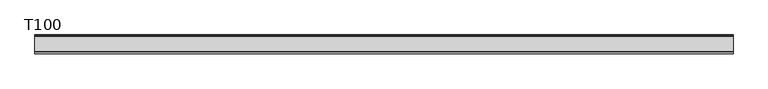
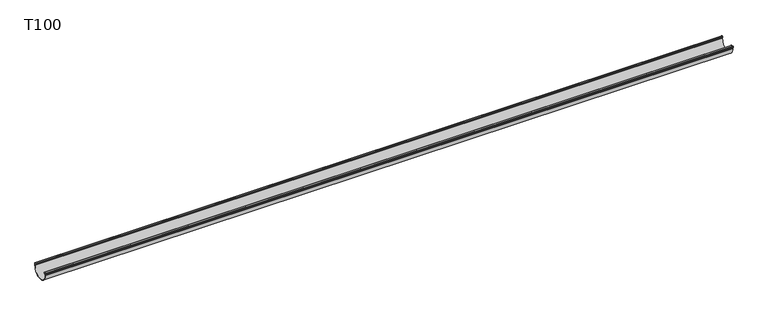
"""IFC4 building model written with IfcOpenShell, lengths in millimetres: proxy geometry, GROVIK_Gutter_Straight : T100."""

import ifcopenshell
import ifcopenshell.guid

model = None  # the IFC model being written
_history = None  # IfcOwnerHistory: only IFC2X3 demands one
_inside = {}  # id of a spatial element -> (the spatial element, [elements in it])
_under = {}  # id of a project, library or spatial element -> (it, [spatial elements below it])
_declared = {}  # id of a project -> (the project, [libraries it declares])
_typed = {}  # id of a type object -> (the type object, [elements of that type])
_made_of = {}  # id of a material, layer set ... -> (it, [elements and type objects made of it])


def new_model(schema):
    """Start an empty IFC model of exactly this schema.

    Asked for "IFC4X3", IfcOpenShell would pick the latest addendum, in which some entities
    have other attributes; the version numbers below select the first issue.
    IFC2X3 requires an IfcOwnerHistory on every rooted entity: one is made here for all.
    """
    global model, _history
    if schema == "IFC4X3":
        model = ifcopenshell.file(schema_version=(4, 3, 0, 0))
    else:
        model = ifcopenshell.file(schema=schema)
    _inside.clear()
    _under.clear()
    _declared.clear()
    _typed.clear()
    _made_of.clear()
    _history = None
    if model.schema == "IFC2X3":
        org = make("IfcOrganization", Name="unknown")
        user = make(
            "IfcPersonAndOrganization",
            ThePerson=make("IfcPerson", FamilyName="unknown"),
            TheOrganization=org,
        )
        app = make(
            "IfcApplication",
            ApplicationDeveloper=org,
            Version="unknown",
            ApplicationFullName="unknown",
            ApplicationIdentifier="unknown",
        )
        _history = make(
            "IfcOwnerHistory",
            OwningUser=user,
            OwningApplication=app,
            ChangeAction="ADDED",
            CreationDate=0,
        )
    return model


def make(cls, **values):
    """One entity of the class cls with the attributes given. An attribute that is None is left unset."""
    return model.create_entity(
        cls, **{name: value for name, value in values.items() if value is not None}
    )


def rooted(cls, **values):
    """An entity with a GlobalId (a new one), such as an element, a storey or a relation."""
    return make(cls, GlobalId=ifcopenshell.guid.new(), OwnerHistory=_history, **values)


def si_unit(unit_type, name, prefix=None):
    """IfcSIUnit, for example si_unit("LENGTHUNIT", "METRE", prefix="MILLI")."""
    return make("IfcSIUnit", UnitType=unit_type, Prefix=prefix, Name=name)


def assignment(units):
    """IfcUnitAssignment: the units of a project."""
    return None if units is None else make("IfcUnitAssignment", Units=units)


def point(xyz):
    """IfcCartesianPoint."""
    return None if xyz is None else make("IfcCartesianPoint", Coordinates=xyz)


def direction(xyz):
    """IfcDirection."""
    return None if xyz is None else make("IfcDirection", DirectionRatios=xyz)


def frame(location, z_axis=None, x_axis=None):
    """IfcAxis2Placement3D, a coordinate frame: its origin and axes. An axis left out is left unset."""
    return make(
        "IfcAxis2Placement3D",
        Location=point(location),
        Axis=direction(z_axis),
        RefDirection=direction(x_axis),
    )


def frame_2d(location, x_axis=None):
    """IfcAxis2Placement2D, a coordinate frame in the plane: its origin and x axis."""
    return make(
        "IfcAxis2Placement2D", Location=point(location), RefDirection=direction(x_axis)
    )


def origin():
    """The frame at (0, 0, 0) with its axes left unset."""
    return frame((0.0, 0.0, 0.0))


def place(relative_to, where):
    """IfcLocalPlacement: puts the frame where relative to a parent placement (None: the world)."""
    return make(
        "IfcLocalPlacement", PlacementRelTo=relative_to, RelativePlacement=where
    )


def context(
    kind, dimensions, precision=None, world=None, true_north=None, identifier=None
):
    """IfcGeometricRepresentationContext, for example the 3D "Model" context."""
    return make(
        "IfcGeometricRepresentationContext",
        ContextIdentifier=identifier,
        ContextType=kind,
        CoordinateSpaceDimension=dimensions,
        Precision=precision,
        WorldCoordinateSystem=world,
        TrueNorth=true_north,
    )


def project(units=None, contexts=None):
    """IfcProject with its units and contexts."""
    return rooted(
        "IfcProject",
        Name="project",
        RepresentationContexts=contexts,
        UnitsInContext=assignment(units),
    )


def spatial(cls, under=None, at=None, **own):
    """A site, building, storey or space (cls), placed at a placement, below another one or the project."""
    s = rooted(cls, ObjectPlacement=at, **own)
    if under is not None:
        _under.setdefault(under.id(), (under, []))[1].append(s)
    return s


def polyline(points):
    """IfcPolyline through the points."""
    return make("IfcPolyline", Points=[point(p) for p in points])


def circle_curve(where, radius):
    """IfcCircle in the frame where."""
    return make("IfcCircle", Position=where, Radius=radius)


def trimmed(basis, trim1, trim2, sense, master):
    """IfcTrimmedCurve: the piece of a basis curve between two trims."""
    return make(
        "IfcTrimmedCurve",
        BasisCurve=basis,
        Trim1=trim1,
        Trim2=trim2,
        SenseAgreement=sense,
        MasterRepresentation=master,
    )


def segment(curve, same_sense, transition):
    """IfcCompositeCurveSegment."""
    return make(
        "IfcCompositeCurveSegment",
        Transition=transition,
        SameSense=same_sense,
        ParentCurve=curve,
    )


def composite_curve(segments, self_intersect=None):
    """IfcCompositeCurve: segments joined end to end."""
    return make("IfcCompositeCurve", Segments=segments, SelfIntersect=self_intersect)


def outline(outer, holes=None, kind="AREA"):
    """IfcArbitraryClosedProfileDef: a profile drawn as a closed curve; with holes, ...WithVoids."""
    if holes is None:
        return make("IfcArbitraryClosedProfileDef", ProfileType=kind, OuterCurve=outer)
    return make(
        "IfcArbitraryProfileDefWithVoids",
        ProfileType=kind,
        OuterCurve=outer,
        InnerCurves=holes,
    )


def extrude(swept, where, along, depth):
    """IfcExtrudedAreaSolid: the profile swept, set in the frame where, extruded along a direction by depth."""
    return make(
        "IfcExtrudedAreaSolid",
        SweptArea=swept,
        Position=where,
        ExtrudedDirection=direction(along),
        Depth=depth,
    )


def shape(context_of_items, identifier, shape_type, items):
    """IfcShapeRepresentation: the items that make up one representation, for example the "Body"."""
    return make(
        "IfcShapeRepresentation",
        ContextOfItems=context_of_items,
        RepresentationIdentifier=identifier,
        RepresentationType=shape_type,
        Items=items,
    )


def source(mapping_origin, context_of_items, identifier, shape_type, items):
    """IfcRepresentationMap: a shape defined once, which mapped items show again and again."""
    return make(
        "IfcRepresentationMap",
        MappingOrigin=mapping_origin,
        MappedRepresentation=shape(context_of_items, identifier, shape_type, items),
    )


def transform(
    local_origin,
    x_axis=None,
    y_axis=None,
    z_axis=None,
    scale=None,
    scale2=None,
    scale3=None,
    uniform=True,
):
    """IfcCartesianTransformationOperator3D, or its non-uniform kind. x_axis, y_axis, z_axis: its Axis1, 2, 3."""
    if uniform:
        return make(
            "IfcCartesianTransformationOperator3D",
            Axis1=direction(x_axis),
            Axis2=direction(y_axis),
            LocalOrigin=point(local_origin),
            Scale=scale,
            Axis3=direction(z_axis),
        )
    return make(
        "IfcCartesianTransformationOperator3DnonUniform",
        Axis1=direction(x_axis),
        Axis2=direction(y_axis),
        LocalOrigin=point(local_origin),
        Scale=scale,
        Axis3=direction(z_axis),
        Scale2=scale2,
        Scale3=scale3,
    )


def mapped(mapping_source, mapping_target):
    """IfcMappedItem: shows the shape of a source again, moved by a transform."""
    return make(
        "IfcMappedItem", MappingSource=mapping_source, MappingTarget=mapping_target
    )


def made_of(thing, what):
    """Note that an element or type object is made of a material, layer set ...; save() writes the relation."""
    if what is not None:
        _made_of.setdefault(what.id(), (what, []))[1].append(thing)
    return thing


def element(
    cls,
    number,
    at=None,
    inside=None,
    cuts=None,
    type_object=None,
    material=None,
    context=None,
    identifier="Body",
    shape_type=None,
    held_by="IfcProductDefinitionShape",
    body=None,
    shapes=None,
    **own,
):
    """One element of the class cls, such as IfcWall. Its Tag is "e" and its number.

    at: its placement. inside: the storey or other place that contains it. cuts: it is an
    opening in that element (IfcRelVoidsElement). A single representation is given by context,
    identifier, shape_type and body (its items); several are given by shapes. held_by: the class
    of the entity that holds the representations. save() writes the other relations.
    """
    e = rooted(cls, Tag="e%d" % number, ObjectPlacement=at, **own)
    if body is not None:
        shapes = [shape(context, identifier, shape_type, body)]
    if shapes is not None:
        e.Representation = make(held_by, Representations=shapes)
    if inside is not None:
        _inside.setdefault(inside.id(), (inside, []))[1].append(e)
    if cuts is not None:
        rooted(
            "IfcRelVoidsElement", RelatingBuildingElement=cuts, RelatedOpeningElement=e
        )
    if type_object is not None:
        _typed.setdefault(type_object.id(), (type_object, []))[1].append(e)
    return made_of(e, material)


def aggregate(whole, parts):
    """IfcRelAggregates: a whole, such as a stair, and the parts it consists of."""
    return rooted("IfcRelAggregates", RelatingObject=whole, RelatedObjects=parts)


def save(model, path):
    """Write the relations noted so far, then the file.

    IfcRelAggregates (storeys below a building ...), IfcRelContainedInSpatialStructure (elements
    in a storey), IfcRelDefinesByType, IfcRelAssociatesMaterial and IfcRelDeclares: one each for
    every whole, place, type object, material and project.
    """
    for whole, parts in _under.values():
        aggregate(whole, parts)
    for where, things in _inside.values():
        rooted(
            "IfcRelContainedInSpatialStructure",
            RelatedElements=things,
            RelatingStructure=where,
        )
    for kind, things in _typed.values():
        rooted("IfcRelDefinesByType", RelatedObjects=things, RelatingType=kind)
    for what, things in _made_of.values():
        rooted("IfcRelAssociatesMaterial", RelatedObjects=things, RelatingMaterial=what)
    for by, libraries in _declared.values():
        rooted("IfcRelDeclares", RelatingContext=by, RelatedDefinitions=libraries)
    model.write(path)


def t100_e39aad89(model_context):
    return source(origin(), model_context, "Body", "SweptSolid", [
        extrude(outline(composite_curve([segment(polyline([(95.6785725, -12.9222473), (100.8871557, -13.3779393)]), True, "CONTINUOUS"), segment(trimmed(circle_curve(frame_2d((100.8, -14.374134)), 1.0), [point((100.8871557, -13.3779393))], [point((101.8, -14.374134))], False, "CARTESIAN"), True, "CONTINUOUS"), segment(polyline([(101.8, -14.374134), (101.8, -16.3578028)]), True, "CONTINUOUS"), segment(trimmed(circle_curve(frame_2d((50.9, -16.3578028)), 50.9), [point((101.8, -16.3578028))], [point((0.0, -16.3578028))], False, "CARTESIAN"), True, "CONTINUOUS"), segment(polyline([(0.0, -16.3578028), (0.0, -0.5000001)]), True, "CONTINUOUS"), segment(trimmed(circle_curve(frame_2d((0.5, -0.5000001)), 0.5), [point((0.0, -0.5000001))], [point((0.8213938, -0.1169778))], False, "CARTESIAN"), True, "CONTINUOUS"), segment(polyline([(0.8213938, -0.1169778), (6.2279844, -4.6536459), (5.6494755, -5.343086), (0.9, -1.3578028), (0.9, -16.3578028)]), True, "CONTINUOUS"), segment(trimmed(circle_curve(frame_2d((50.9, -16.3578028)), 50.0), [point((0.9, -16.3578028))], [point((100.9, -16.3578028))], True, "CARTESIAN"), True, "CONTINUOUS"), segment(polyline([(100.9, -16.3578028), (100.9, -14.2825008), (95.683723, -13.8261357)]), True, "CONTINUOUS"), segment(trimmed(circle_curve(frame_2d((95.683723, -12.9170968)), 0.909039), [point((95.683723, -13.8261357))], [point((94.7746841, -12.9170968))], False, "CARTESIAN"), True, "CONTINUOUS"), segment(polyline([(94.7746841, -12.9170968), (93.9345391, -3.3141955)]), True, "CONTINUOUS"), segment(trimmed(circle_curve(frame_2d((94.9307338, -3.2270397)), 1.0), [point((93.9345391, -3.3141955))], [point((94.7570856, -2.242232))], False, "CARTESIAN"), True, "CONTINUOUS"), segment(polyline([(94.7570856, -2.242232), (104.6051631, -0.5057503)]), True, "CONTINUOUS"), segment(trimmed(circle_curve(frame_2d((104.6923189, -1.501945)), 1.0), [point((104.6051631, -0.5057503))], [point((105.6885136, -1.4147892))], False, "CARTESIAN"), True, "CONTINUOUS"), segment(polyline([(105.6885136, -1.4147892), (106.1850202, -7.0898858)]), True, "CONTINUOUS"), segment(trimmed(circle_curve(frame_2d((105.1888255, -7.1770416)), 1.0), [point((106.1850202, -7.0898858))], [point((105.0151773, -8.1618494))], False, "CARTESIAN"), True, "CONTINUOUS"), segment(polyline([(105.0151773, -8.1618494), (98.1850202, -6.9575084), (98.3413035, -6.0711814), (105.2998033, -7.2981526), (104.7816977, -1.3761787), (94.8220658, -3.1323306), (95.6785725, -12.9222473)]), True, "CONTINUOUS")], self_intersect=False)), frame((3919.7106109, 0.0, -3.9187106), z_axis=(-0.999999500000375, 0.0, 0.0009999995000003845), x_axis=(0.0, -1.0, 0.0)), (0.0, 0.0, 1.0), 3918.7125703),
    ])


if __name__ == "__main__":
    model = new_model("IFC4")
    model_context = context("Model", 3, world=origin())
    ifc_project = project(units=[si_unit("LENGTHUNIT", "METRE", prefix="MILLI")], contexts=[model_context])
    site = spatial("IfcSite", under=ifc_project)
    building = spatial("IfcBuilding", under=site)
    placement = place(None, origin())
    t100_shape = t100_e39aad89(model_context)
    element("IfcBuildingElementProxy", 1, Name="GROVIK_Gutter_Straight : T100", ObjectType="GROVIK_Gutter_Straight : T100", at=placement, inside=building, context=model_context, shape_type="MappedRepresentation", body=[
        mapped(t100_shape, transform((0.0, 0.0, 0.0), x_axis=(1.0, 0.0, 0.0), y_axis=(0.0, 1.0, 0.0), z_axis=(0.0, 0.0, 1.0))),
    ])
    save(model, "model.ifc")
